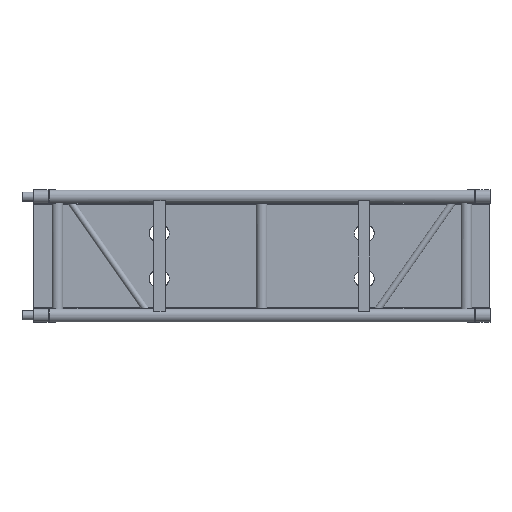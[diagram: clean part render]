
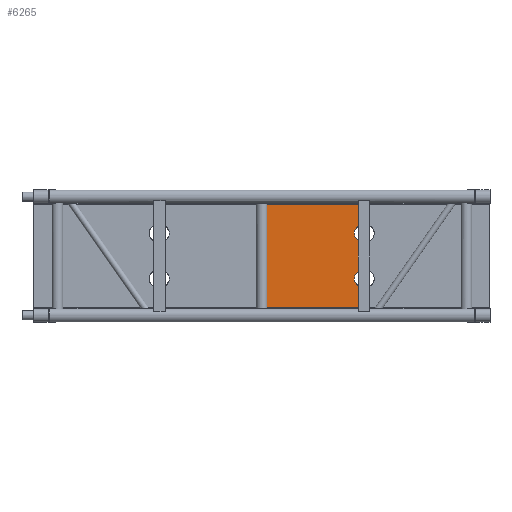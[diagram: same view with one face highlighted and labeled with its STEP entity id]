
A CAD part, front view. The second image highlights one B-rep face of the part: STEP entity #6265.
In plain terms, the highlighted planar face has unit normal (0, -1, 0).
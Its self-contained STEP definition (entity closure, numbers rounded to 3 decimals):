
#251=PLANE('',#6673);
#583=LINE('',#9319,#995);
#584=LINE('',#9321,#996);
#585=LINE('',#9323,#997);
#586=LINE('',#9325,#998);
#587=LINE('',#9327,#999);
#588=LINE('',#9328,#1000);
#995=VECTOR('',#7565,10.);
#996=VECTOR('',#7568,10.);
#997=VECTOR('',#7571,10.);
#998=VECTOR('',#7572,10.);
#999=VECTOR('',#7573,10.);
#1000=VECTOR('',#7574,10.);
#1471=FACE_OUTER_BOUND('',#1829,.T.);
#1829=EDGE_LOOP('',(#4365,#4366,#4367,#4368,#4369,#4370,#4371,#4372));
#2335=CIRCLE('',#6674,37.5);
#2336=CIRCLE('',#6675,37.5);
#2711=VERTEX_POINT('',#9266);
#2715=VERTEX_POINT('',#9274);
#2716=VERTEX_POINT('',#9276);
#2721=VERTEX_POINT('',#9286);
#2722=VERTEX_POINT('',#9288);
#2726=VERTEX_POINT('',#9296);
#2733=VERTEX_POINT('',#9324);
#2734=VERTEX_POINT('',#9326);
#3383=EDGE_CURVE('',#2711,#2715,#583,.T.);
#3384=EDGE_CURVE('',#2715,#2716,#2335,.T.);
#3385=EDGE_CURVE('',#2716,#2721,#584,.T.);
#3386=EDGE_CURVE('',#2721,#2722,#2336,.T.);
#3387=EDGE_CURVE('',#2722,#2726,#585,.T.);
#3388=EDGE_CURVE('',#2733,#2726,#586,.T.);
#3389=EDGE_CURVE('',#2734,#2733,#587,.T.);
#3390=EDGE_CURVE('',#2734,#2711,#588,.T.);
#4365=ORIENTED_EDGE('',*,*,#3383,.T.);
#4366=ORIENTED_EDGE('',*,*,#3384,.T.);
#4367=ORIENTED_EDGE('',*,*,#3385,.T.);
#4368=ORIENTED_EDGE('',*,*,#3386,.T.);
#4369=ORIENTED_EDGE('',*,*,#3387,.T.);
#4370=ORIENTED_EDGE('',*,*,#3388,.F.);
#4371=ORIENTED_EDGE('',*,*,#3389,.F.);
#4372=ORIENTED_EDGE('',*,*,#3390,.T.);
#6265=ADVANCED_FACE('',(#1471),#251,.T.);
#6673=AXIS2_PLACEMENT_3D('',#9318,#7563,#7564);
#6674=AXIS2_PLACEMENT_3D('',#9320,#7566,#7567);
#6675=AXIS2_PLACEMENT_3D('',#9322,#7569,#7570);
#7563=DIRECTION('center_axis',(0.,-1.,0.));
#7564=DIRECTION('ref_axis',(0.,0.,
-1.));
#7565=DIRECTION('',(0.,0.,1.));
#7566=DIRECTION('center_axis',(0.,1.,0.));
#7567=DIRECTION('ref_axis',(0.,0.,
-1.));
#7568=DIRECTION('',(0.,0.,1.));
#7569=DIRECTION('center_axis',(0.,1.,0.));
#7570=DIRECTION('ref_axis',(0.,0.,
-1.));
#7571=DIRECTION('',(0.,0.,1.));
#7572=DIRECTION('',(1.,0.,0.));
#7573=DIRECTION('',(0.,0.,1.));
#7574=DIRECTION('',(1.,0.,0.));
#9266=CARTESIAN_POINT('',(1422.925,74.,-490.));
#9274=CARTESIAN_POINT('',(1422.925,74.,-390.674));
#9276=CARTESIAN_POINT('',(1422.925,74.,-327.326));
#9286=CARTESIAN_POINT('',(1422.925,74.,-192.674));
#9288=CARTESIAN_POINT('',(1422.925,74.,-129.326));
#9296=CARTESIAN_POINT('',(1422.925,74.,-30.));
#9318=CARTESIAN_POINT('Origin',(552.,74.,-490.));
#9319=CARTESIAN_POINT('',(1422.925,74.,-503.));
#9320=CARTESIAN_POINT('Origin',(1443.,74.,-359.));
#9321=CARTESIAN_POINT('',(1422.925,74.,-503.));
#9322=CARTESIAN_POINT('Origin',(1443.,74.,-161.));
#9323=CARTESIAN_POINT('',(1422.925,74.,-503.));
#9324=CARTESIAN_POINT('',(1002.687,74.,-30.));
#9325=CARTESIAN_POINT('',(552.,74.,-30.));
#9326=CARTESIAN_POINT('',(1002.687,74.,-490.));
#9327=CARTESIAN_POINT('',(1002.687,74.,-260.));
#9328=CARTESIAN_POINT('',(552.,74.,-490.));
